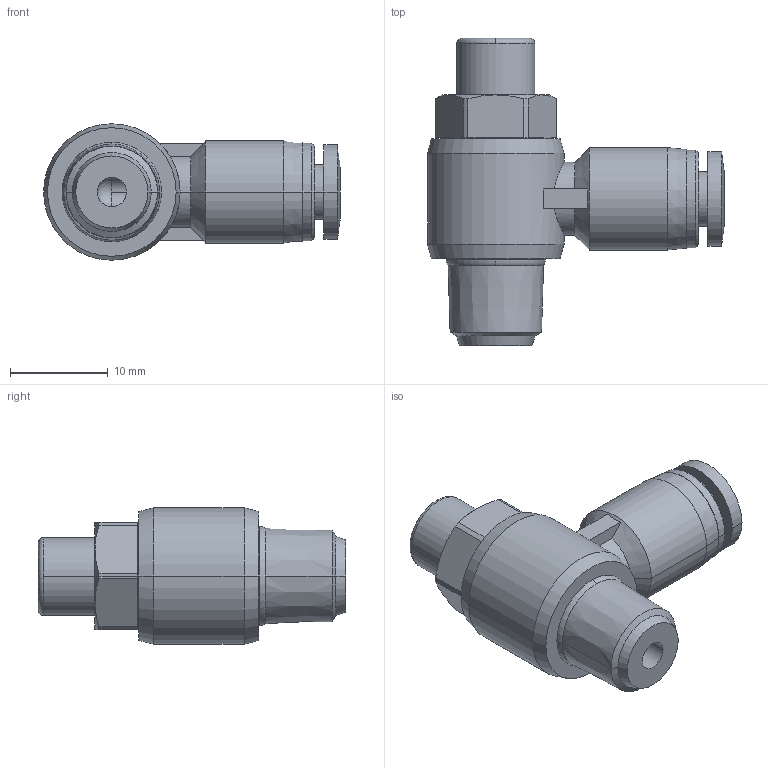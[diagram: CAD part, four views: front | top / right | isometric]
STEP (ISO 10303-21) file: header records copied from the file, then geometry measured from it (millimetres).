
FILE_DESCRIPTION (( 'STEP AP203' ), '1' );
FILE_NAME ('SCLF04-01.STEP', '2020-05-13T17:26:06', ( '' ), ( '' ), 'SwSTEP 2.0', 'SolidWorks 2019', '' );
FILE_SCHEMA (( 'CONFIG_CONTROL_DESIGN' ));
Length unit declared in the file: millimetre
Products named in the file (1): SCLF04-01
Bounding box: 30.45 x 31.5 x 14 mm (x, y, z)
Volume: 4063.1 mm3; surface area: 2692.4 mm2
Topology: 1 solids, 1 shells, 125 faces, 298 edges, 183 vertices
Faces by surface type: plane 45, cylinder 41, cone 32, torus 4, bspline 2, sphere 1
Entity records: 3819 total; most frequent: CARTESIAN_POINT 838, DIRECTION 650, ORIENTED_EDGE 590, EDGE_CURVE 295, AXIS2_PLACEMENT_3D 261, VERTEX_POINT 183, EDGE_LOOP 138, CIRCLE 137
